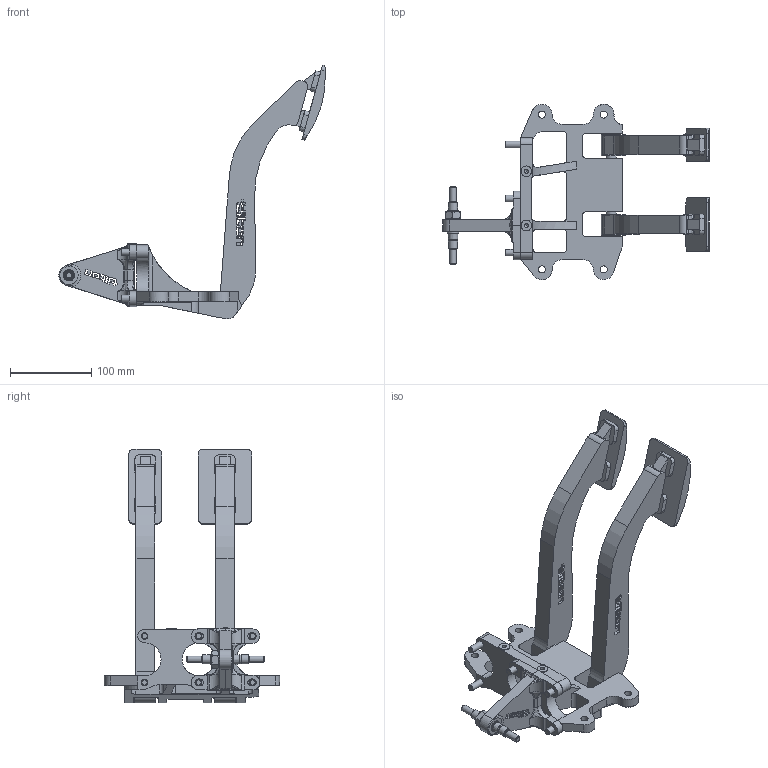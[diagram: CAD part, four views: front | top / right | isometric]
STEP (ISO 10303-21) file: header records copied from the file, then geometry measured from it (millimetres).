
FILE_DESCRIPTION(/* description */ ('Unknown'),/* implementation_level */ '2;1');
FILE_NAME(/* name */ '72-807, 11-22-16',/* time_stamp */ '2016-11-22T15:59:45-08:00',/* author */ ('Unknown'),/* organization */ ('Unknown'),/* preprocessor_version */ 'ST-DEVELOPER v16.7',/* originating_system */ 'DEX',/* authorisation */ $);
FILE_SCHEMA (('AUTOMOTIVE_DESIGN {1 0 10303 214 3 1 1}'));
Length unit declared in the file: millimetre
Products named in the file (1): 72-807, 11-22-16
Bounding box: 328.17 x 215.9 x 312.75 mm (x, y, z)
Volume: 1045444.9 mm3; surface area: 213202.2 mm2
Topology: 4 solids, 5 shells, 740 faces, 2029 edges, 1329 vertices
Faces by surface type: plane 394, cylinder 228, bspline 75, cone 35, torus 8
Full cylindrical faces by diameter (mm): 4.976 x2, 7.938 x8, 8.738 x4, 11.176 x2, 12.7 x6, 12.713 x1, 13.06 x2, 13.97 x1, 19.05 x1, 24.195 x1, 40.64 x1
Entity records: 29230 total; most frequent: CARTESIAN_POINT 11114, ORIENTED_EDGE 3872, DIRECTION 3461, EDGE_CURVE 1936, VERTEX_POINT 1294, AXIS2_PLACEMENT_3D 1159, LINE 1143, VECTOR 1143
